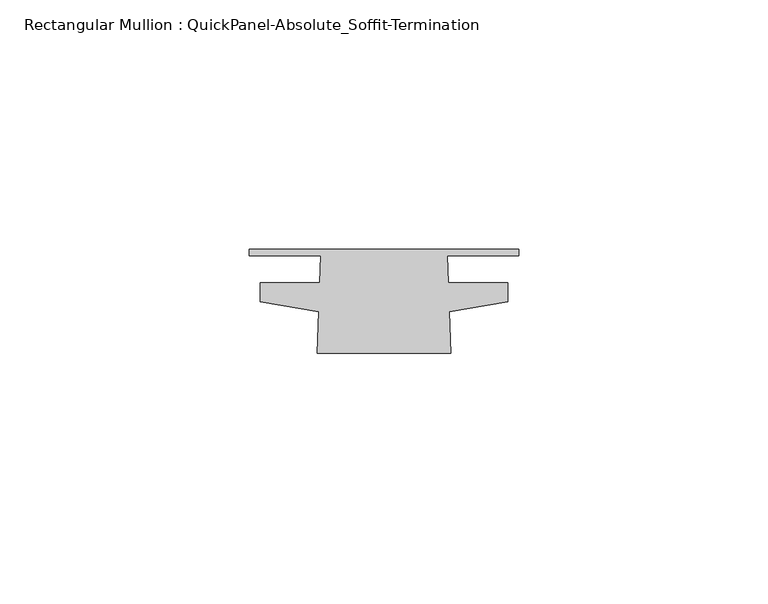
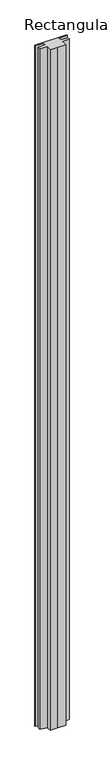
"""IFC4 building model written with IfcOpenShell, lengths in millimetres: member geometry, Rectangular Mullion : QuickPanel-Absolute_Soffit-Termination."""

from ifc_helpers import new_model, si_unit, frame, origin, place, context, project, spatial, polyline, outline, extrude, source, transform, mapped, element, save


def rectangular_mullion_quickpanel_absolute_soffit_termination_b88b2211(model_context):
    return source(origin(), model_context, "Body", "SweptSolid", [
        extrude(outline(polyline([(-26.9910864, -16.8526378), (-40.4017697, -16.8526378), (-40.1128326, -8.5785638), (-51.8217103, -6.5712869), (-51.8217103, -2.7399197), (-39.9089427, -2.7399197), (-39.7194262, 2.6871227), (-53.9821728, 2.6871227), (-53.9821728, 3.9571227), (0.0, 3.9571227), (0.0, 2.6871227), (-14.2627466, 2.6871227), (-14.0732301, -2.7399197), (-2.1604625, -2.7399197), (-2.1604625, -6.5712869), (-13.8693402, -8.5785638), (-13.5804031, -16.8526378), (-26.9910864, -16.8526378)])), frame((0.0, 0.0, -1219.2), z_axis=(0.0, 0.0, 1.0), x_axis=(1.0, 0.0, 0.0)), (0.0, 0.0, 1.0), 1219.2),
    ])


if __name__ == "__main__":
    model = new_model("IFC4")
    model_context = context("Model", 3, world=origin())
    ifc_project = project(units=[si_unit("LENGTHUNIT", "METRE", prefix="MILLI")], contexts=[model_context])
    site = spatial("IfcSite", under=ifc_project)
    building = spatial("IfcBuilding", under=site)
    placement = place(None, origin())
    rectangular_mullion_quickpanel_absolute_soffit_termination_shape = rectangular_mullion_quickpanel_absolute_soffit_termination_b88b2211(model_context)
    element("IfcMember", 1, ObjectType="Rectangular Mullion : QuickPanel-Absolute_Soffit-Termination", at=placement, inside=building, context=model_context, shape_type="MappedRepresentation", body=[
        mapped(rectangular_mullion_quickpanel_absolute_soffit_termination_shape, transform((0.0, 0.0, 0.0), x_axis=(1.0, 0.0, 0.0), y_axis=(0.0, 1.0, 0.0), z_axis=(0.0, 0.0, 1.0))),
    ])
    save(model, "model.ifc")
